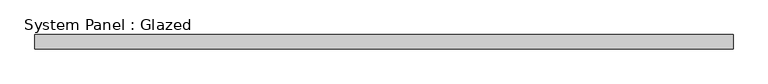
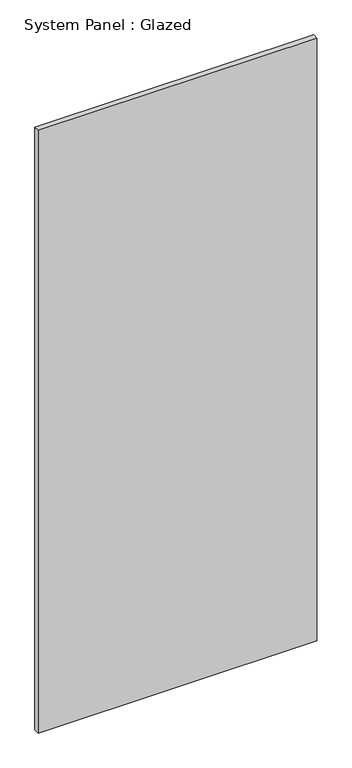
"""IFC4 building model written with IfcOpenShell, lengths in millimetres: plate geometry, System Panel : Glazed."""

from ifc_helpers import new_model, si_unit, origin, origin_with_axes, place, context, project, spatial, polyline, outline, extrude, source, transform, mapped, element, save


def system_panel_glazed_e4c410e4(model_context):
    return source(origin(), model_context, "Body", "SweptSolid", [
        extrude(outline(polyline([(612.4999997, -25.0), (-612.4999997, -25.0), (-612.4999997, 0.0), (612.4999997, 0.0), (612.4999997, -25.0)])), origin_with_axes(), (0.0, 0.0, 1.0), 2800.0),
    ])


if __name__ == "__main__":
    model = new_model("IFC4")
    model_context = context("Model", 3, world=origin())
    ifc_project = project(units=[si_unit("LENGTHUNIT", "METRE", prefix="MILLI")], contexts=[model_context])
    site = spatial("IfcSite", under=ifc_project)
    building = spatial("IfcBuilding", under=site)
    placement = place(None, origin())
    system_panel_glazed_shape = system_panel_glazed_e4c410e4(model_context)
    element("IfcPlate", 1, ObjectType="System Panel : Glazed", at=placement, inside=building, context=model_context, shape_type="MappedRepresentation", body=[
        mapped(system_panel_glazed_shape, transform((0.0, 0.0, 0.0), x_axis=(1.0, 0.0, 0.0), y_axis=(0.0, 1.0, 0.0), z_axis=(0.0, 0.0, 1.0))),
    ])
    save(model, "model.ifc")
